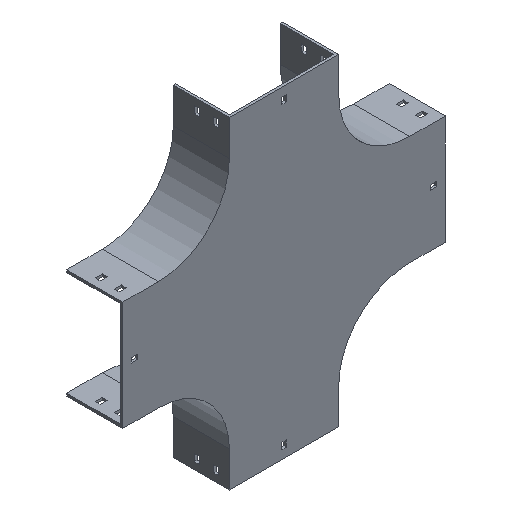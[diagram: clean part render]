
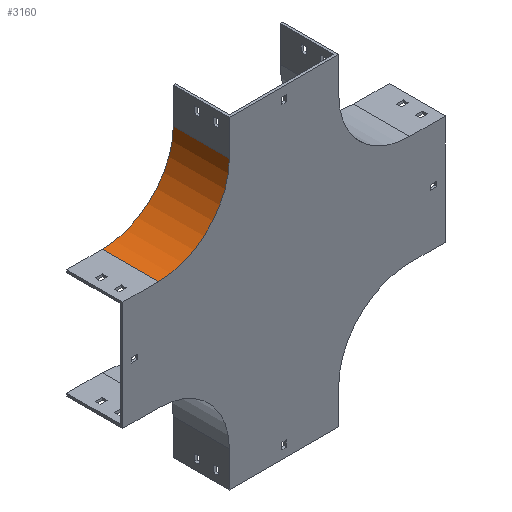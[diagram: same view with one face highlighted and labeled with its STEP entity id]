
A CAD part, isometric view. The second image highlights one B-rep face of the part: STEP entity #3160.
In plain terms, the highlighted cylindrical face has radius 100 mm (diameter 200 mm), a partial arc.
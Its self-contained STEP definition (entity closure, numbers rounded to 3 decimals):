
#17 = VECTOR ( 'NONE', #335, 1000. ) ;
#78 = VERTEX_POINT ( 'NONE', #3120 ) ;
#240 = CARTESIAN_POINT ( 'NONE',  ( -354., 79., 0. ) ) ;
#286 = CYLINDRICAL_SURFACE ( 'NONE', #3502, 100. ) ;
#305 = VERTEX_POINT ( 'NONE', #1642 ) ;
#335 = DIRECTION ( 'NONE',  ( 0., -1., 0. ) ) ;
#352 = ORIENTED_EDGE ( 'NONE', *, *, #3769, .F. ) ;
#362 = LINE ( 'NONE', #624, #17 ) ;
#394 = ORIENTED_EDGE ( 'NONE', *, *, #2069, .T. ) ;
#434 = CARTESIAN_POINT ( 'NONE',  ( -354., 79., -100. ) ) ;
#459 = DIRECTION ( 'NONE',  ( 0., -1., 0. ) ) ;
#518 = DIRECTION ( 'NONE',  ( 0., -1., 0. ) ) ;
#569 = VERTEX_POINT ( 'NONE', #2765 ) ;
#624 = CARTESIAN_POINT ( 'NONE',  ( -254., 79., 0. ) ) ;
#781 = AXIS2_PLACEMENT_3D ( 'NONE', #931, #459, #2998 ) ;
#812 = DIRECTION ( 'NONE',  ( 0., -1., 0. ) ) ;
#860 = ORIENTED_EDGE ( 'NONE', *, *, #1609, .T. ) ;
#914 = CARTESIAN_POINT ( 'NONE',  ( -354., 79., 0. ) ) ;
#931 = CARTESIAN_POINT ( 'NONE',  ( -354., 0., 0. ) ) ;
#968 = EDGE_CURVE ( 'NONE', #569, #305, #3069, .T. ) ;
#992 = VERTEX_POINT ( 'NONE', #2883 ) ;
#1384 = EDGE_LOOP ( 'NONE', ( #394, #352, #2193, #860 ) ) ;
#1537 = AXIS2_PLACEMENT_3D ( 'NONE', #240, #518, #3827 ) ;
#1609 = EDGE_CURVE ( 'NONE', #569, #992, #3354, .T. ) ;
#1642 = CARTESIAN_POINT ( 'NONE',  ( -254., 79., 0. ) ) ;
#1781 = VECTOR ( 'NONE', #812, 1000. ) ;
#2069 = EDGE_CURVE ( 'NONE', #992, #78, #2559, .T. ) ;
#2193 = ORIENTED_EDGE ( 'NONE', *, *, #968, .F. ) ;
#2396 = DIRECTION ( 'NONE',  ( 0., 0., -1. ) ) ;
#2559 = CIRCLE ( 'NONE', #781, 100. ) ;
#2664 = FACE_OUTER_BOUND ( 'NONE', #1384, .T. ) ;
#2765 = CARTESIAN_POINT ( 'NONE',  ( -354., 79., -100. ) ) ;
#2883 = CARTESIAN_POINT ( 'NONE',  ( -354., 0., -100. ) ) ;
#2998 = DIRECTION ( 'NONE',  ( 0., 0., 1. ) ) ;
#3069 = CIRCLE ( 'NONE', #1537, 100. ) ;
#3120 = CARTESIAN_POINT ( 'NONE',  ( -254., 0., 0. ) ) ;
#3160 = ADVANCED_FACE ( 'NONE', ( #2664 ), #286, .F. ) ;
#3354 = LINE ( 'NONE', #434, #1781 ) ;
#3502 = AXIS2_PLACEMENT_3D ( 'NONE', #914, #3790, #2396 ) ;
#3769 = EDGE_CURVE ( 'NONE', #305, #78, #362, .T. ) ;
#3790 = DIRECTION ( 'NONE',  ( 0., -1., 0. ) ) ;
#3827 = DIRECTION ( 'NONE',  ( 0., 0., 1. ) ) ;
